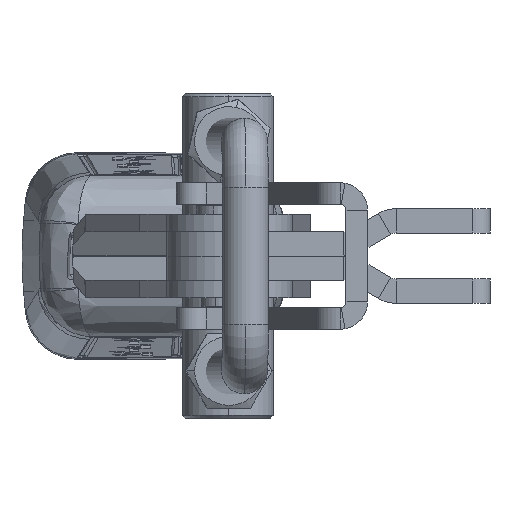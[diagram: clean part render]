
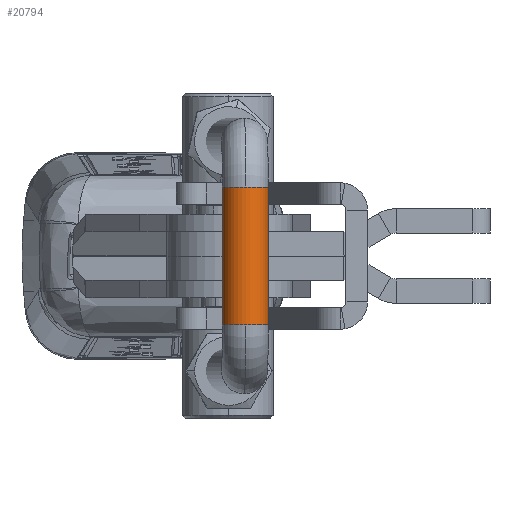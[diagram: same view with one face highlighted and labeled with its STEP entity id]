
A CAD part, left-side view. The second image highlights one B-rep face of the part: STEP entity #20794.
In plain terms, the highlighted cylindrical face has radius 4 mm (diameter 8 mm), a partial arc.
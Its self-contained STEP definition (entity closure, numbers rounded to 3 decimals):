
#289 = AXIS2_PLACEMENT_3D ( 'NONE', #22420, #10977, #24352 ) ;
#320 = CARTESIAN_POINT ( 'NONE',  ( -12., 209., 0. ) ) ;
#730 = VERTEX_POINT ( 'NONE', #4735 ) ;
#979 = ORIENTED_EDGE ( 'NONE', *, *, #13522, .T. ) ;
#1127 = DIRECTION ( 'NONE',  ( 0., 0., 1. ) ) ;
#1961 = FACE_OUTER_BOUND ( 'NONE', #17022, .T. ) ;
#2720 = CARTESIAN_POINT ( 'NONE',  ( -12., 205., -4. ) ) ;
#3697 = VECTOR ( 'NONE', #12289, 1000. ) ;
#3853 = DIRECTION ( 'NONE',  ( 1., 0., 0. ) ) ;
#4060 = EDGE_CURVE ( 'NONE', #22969, #23941, #9804, .T. ) ;
#4389 = CARTESIAN_POINT ( 'NONE',  ( -12., 205., 0. ) ) ;
#4592 = CIRCLE ( 'NONE', #6280, 4. ) ;
#4735 = CARTESIAN_POINT ( 'NONE',  ( 12., 209., 0. ) ) ;
#5893 = CYLINDRICAL_SURFACE ( 'NONE', #9990, 4. ) ;
#5940 = ORIENTED_EDGE ( 'NONE', *, *, #7715, .T. ) ;
#6280 = AXIS2_PLACEMENT_3D ( 'NONE', #24107, #12645, #1127 ) ;
#6319 = CARTESIAN_POINT ( 'NONE',  ( 12., 205., -4. ) ) ;
#6337 = DIRECTION ( 'NONE',  ( 0., 0., 1. ) ) ;
#6527 = CARTESIAN_POINT ( 'NONE',  ( -12., 205., 4. ) ) ;
#6812 = CARTESIAN_POINT ( 'NONE',  ( 12., 205., 4. ) ) ;
#7497 = VERTEX_POINT ( 'NONE', #320 ) ;
#7715 = EDGE_CURVE ( 'NONE', #7497, #19200, #4592, .T. ) ;
#8222 = DIRECTION ( 'NONE',  ( 1., 0., 0. ) ) ;
#9233 = VERTEX_POINT ( 'NONE', #6812 ) ;
#9252 = CIRCLE ( 'NONE', #289, 4. ) ;
#9357 = CARTESIAN_POINT ( 'NONE',  ( -12., 205., 4. ) ) ;
#9436 = LINE ( 'NONE', #6527, #3697 ) ;
#9517 = CIRCLE ( 'NONE', #15612, 4. ) ;
#9640 = CARTESIAN_POINT ( 'NONE',  ( -12., 205., -4. ) ) ;
#9804 = LINE ( 'NONE', #9640, #23826 ) ;
#9990 = AXIS2_PLACEMENT_3D ( 'NONE', #19678, #8222, #13921 ) ;
#10977 = DIRECTION ( 'NONE',  ( 1., 0., 0. ) ) ;
#12289 = DIRECTION ( 'NONE',  ( 1., 0., 0. ) ) ;
#12645 = DIRECTION ( 'NONE',  ( 1., 0., 0. ) ) ;
#13283 = AXIS2_PLACEMENT_3D ( 'NONE', #4389, #17814, #6337 ) ;
#13522 = EDGE_CURVE ( 'NONE', #19200, #9233, #9436, .T. ) ;
#13846 = EDGE_CURVE ( 'NONE', #22969, #7497, #15427, .T. ) ;
#13921 = DIRECTION ( 'NONE',  ( 0., 0., -1. ) ) ;
#14724 = ORIENTED_EDGE ( 'NONE', *, *, #13846, .T. ) ;
#15375 = CARTESIAN_POINT ( 'NONE',  ( 12., 205., 0. ) ) ;
#15392 = ORIENTED_EDGE ( 'NONE', *, *, #20584, .F. ) ;
#15427 = CIRCLE ( 'NONE', #13283, 4. ) ;
#15611 = ORIENTED_EDGE ( 'NONE', *, *, #19444, .F. ) ;
#15612 = AXIS2_PLACEMENT_3D ( 'NONE', #15375, #3853, #17286 ) ;
#17022 = EDGE_LOOP ( 'NONE', ( #14724, #5940, #979, #15392, #15611, #23244 ) ) ;
#17286 = DIRECTION ( 'NONE',  ( 0., 0., 1. ) ) ;
#17814 = DIRECTION ( 'NONE',  ( 1., 0., 0. ) ) ;
#19200 = VERTEX_POINT ( 'NONE', #9357 ) ;
#19444 = EDGE_CURVE ( 'NONE', #23941, #730, #9252, .T. ) ;
#19678 = CARTESIAN_POINT ( 'NONE',  ( -12., 205., 0. ) ) ;
#20584 = EDGE_CURVE ( 'NONE', #730, #9233, #9517, .T. ) ;
#20794 = ADVANCED_FACE ( 'NONE', ( #1961 ), #5893, .T. ) ;
#21086 = DIRECTION ( 'NONE',  ( 1., 0., 0. ) ) ;
#22420 = CARTESIAN_POINT ( 'NONE',  ( 12., 205., 0. ) ) ;
#22969 = VERTEX_POINT ( 'NONE', #2720 ) ;
#23244 = ORIENTED_EDGE ( 'NONE', *, *, #4060, .F. ) ;
#23826 = VECTOR ( 'NONE', #21086, 1000. ) ;
#23941 = VERTEX_POINT ( 'NONE', #6319 ) ;
#24107 = CARTESIAN_POINT ( 'NONE',  ( -12., 205., 0. ) ) ;
#24352 = DIRECTION ( 'NONE',  ( 0., 0., 1. ) ) ;
